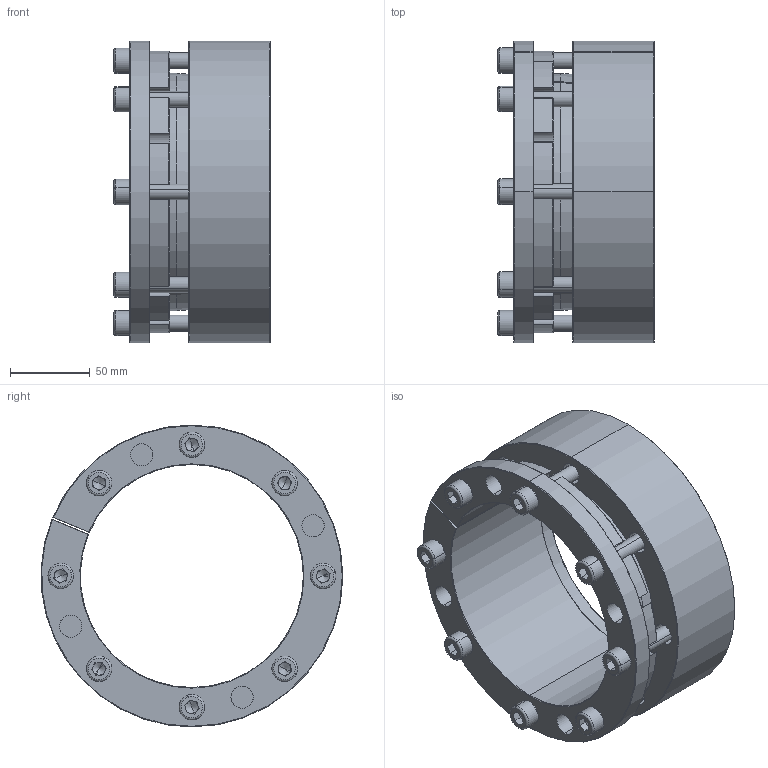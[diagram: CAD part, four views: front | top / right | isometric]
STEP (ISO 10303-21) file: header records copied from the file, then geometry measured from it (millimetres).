
FILE_DESCRIPTION (( 'STEP AP214' ), '1' );
FILE_NAME ('PL-H2 140-190.STEP', '2022-07-25T02:37:53', ( '' ), ( '' ), 'SwSTEP 2.0', 'SolidWorks 2022', '' );
FILE_SCHEMA (( 'AUTOMOTIVE_DESIGN' ));
Length unit declared in the file: millimetre
Products named in the file (1): PL-H2 140-190
Bounding box: 98.19 x 189.66 x 189.82 mm (x, y, z)
Volume: 877368.4 mm3; surface area: 180704.2 mm2
Topology: 1 solids, 1 shells, 319 faces, 815 edges, 502 vertices
Faces by surface type: plane 128, cylinder 97, cone 78, torus 16
Entity records: 9706 total; most frequent: DIRECTION 1770, CARTESIAN_POINT 1765, ORIENTED_EDGE 1598, EDGE_CURVE 799, AXIS2_PLACEMENT_3D 699, VERTEX_POINT 502, CIRCLE 379, LINE 372
